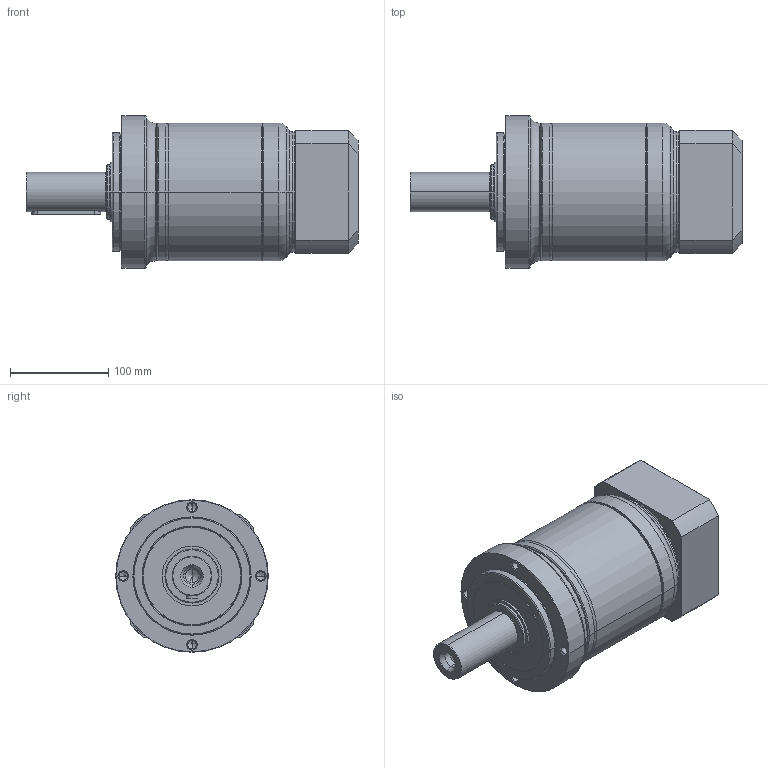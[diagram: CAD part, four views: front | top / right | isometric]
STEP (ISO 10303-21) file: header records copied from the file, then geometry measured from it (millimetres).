
FILE_DESCRIPTION((''),'2;1');
FILE_NAME('PE2-155_2ST_32-P0411700101_ASM','2017-06-05T',('d01943'),(''),'PRO/ENGINEER BY PARAMETRIC TECHNOLOGY CORPORATION, 2008410','PRO/ENGINEER BY PARAMETRIC TECHNOLOGY CORPORATION, 2008410','');
FILE_SCHEMA(('CONFIG_CONTROL_DESIGN'));
Length unit declared in the file: millimetre
Products named in the file (9): P1323510001; P0251500001; P1324500301; P0350501001; P0941503001; P0503700010; P0411700101; P1702600001; PE2-155_2ST_32-P0411700101_ASM
Assembly tree (8 placements, depth 2):
  PE2-155_2ST_32-P0411700101_ASM
    P1323510001
    P0251500001
    P1324500301
    P0350501001
    P0941503001
    P0503700010
    P0411700101
    P1702600001
Bounding box: 337.5 x 155 x 155 mm (x, y, z)
Volume: 2621946.8 mm3; surface area: 375062.4 mm2
Topology: 8 solids, 8 shells, 479 faces, 1050 edges, 600 vertices
Faces by surface type: cone 142, cylinder 142, torus 102, plane 77, bspline 16
Entity records: 17780 total; most frequent: CARTESIAN_POINT 7039, DIRECTION 2453, ORIENTED_EDGE 2036, AXIS2_PLACEMENT_3D 1054, EDGE_CURVE 1018, VERTEX_POINT 600, CIRCLE 574, EDGE_LOOP 540
